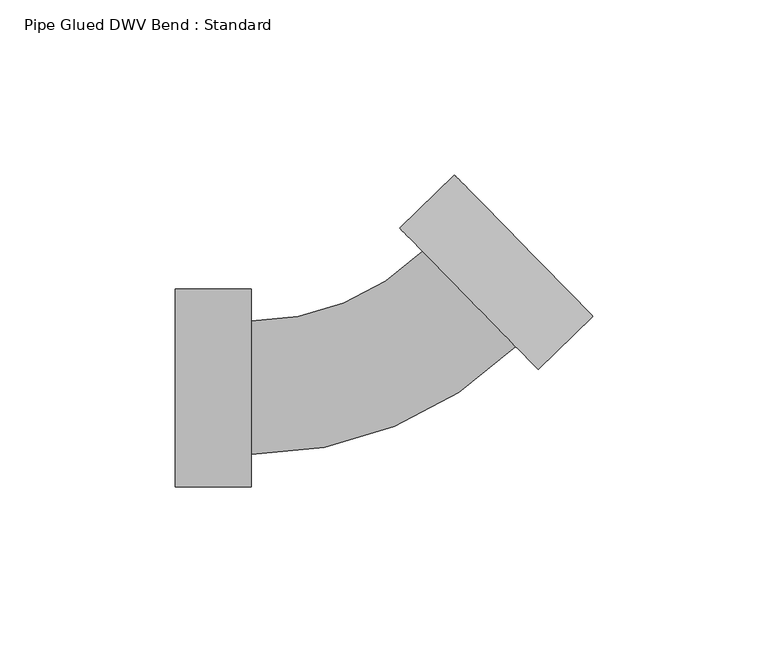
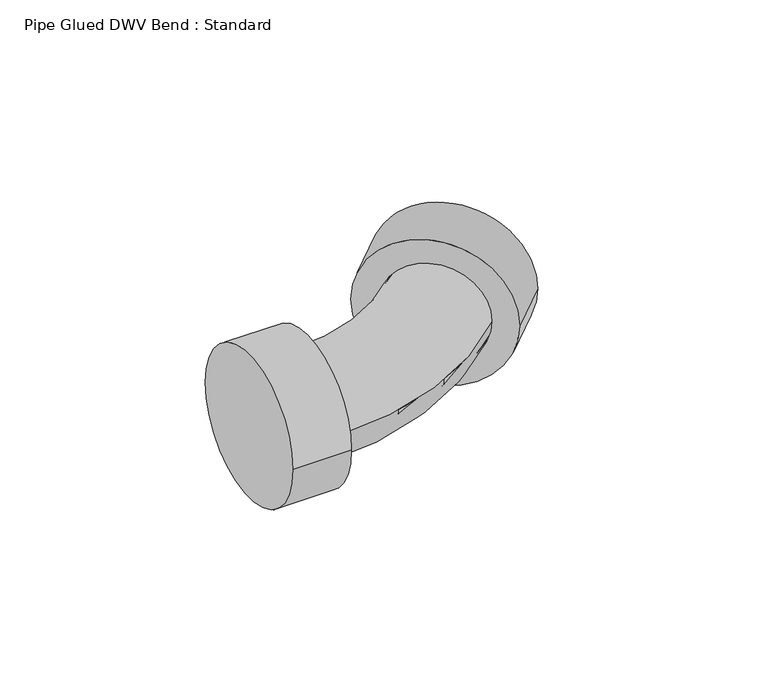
"""IFC4 building model written with IfcOpenShell, lengths in millimetres: pipe fitting geometry, Pipe Glued DWV Bend : Standard."""

from ifc_helpers import new_model, si_unit, point, frame, origin, origin_2d, place, context, project, spatial, circle_curve, ellipse_curve, trimmed, segment, composite_curve, outline, extrude, source, transform, mapped, element, save
from ifc_brep_helpers import plane_surface, cylinder_surface, revolved_surface, advanced_brep


def pipe_glued_dwv_bend_standard_bfc8288a(model_context):
    return source(origin(), model_context, "Body", "SolidModel", [
        advanced_brep(
        [(-36.2823055, -19.05, 0.0), (-36.2823055, 19.05, 0.0), (39.2506469, 11.7768802, 0.0), (12.5919578, 38.9968048, 0.0)],
        [
            (0, 1, circle_curve(frame((-36.2823055, 0.0, 0.0), z_axis=(-1.0, 0.0, 0.0), x_axis=(0.0, 1.0, 0.0)), 19.05)),
            (1, 0, circle_curve(frame((-36.2823055, 0.0, 0.0), z_axis=(-1.0, 0.0, 0.0), x_axis=(0.0, 1.0, 0.0)), 19.05)),
            (2, 3, circle_curve(frame((25.9213024, 25.3868425, 0.0), z_axis=(0.7144337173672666, 0.6997031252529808, 0.0), x_axis=(-0.6997031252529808, 0.7144337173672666, 0.0)), 19.05)),
            (3, 2, circle_curve(frame((25.9213024, 25.3868425, 0.0), z_axis=(0.7144337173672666, 0.6997031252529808, 0.0), x_axis=(-0.6997031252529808, 0.7144337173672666, 0.0)), 19.05)),
            (3, 1, circle_curve(frame((-36.2823055, 88.9, 0.0), z_axis=(0.0, 0.0, -1.0), x_axis=(0.0, -1.0, 0.0)), 69.85)),
            (0, 2, circle_curve(frame((-36.2823055, 88.9, 0.0), z_axis=(0.0, 0.0, 1.0), x_axis=(0.0, -1.0, 0.0)), 107.95)),
        ],
        [
            plane_surface(frame((-36.2823055, 0.0, 0.0), z_axis=(-1.0, 0.0, 0.0), x_axis=(0.0, 0.0, 1.0))),
            plane_surface(frame((25.9213024, 25.3868425, 0.0), z_axis=(0.7144337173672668, 0.6997031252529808, 0.0), x_axis=(0.0, 0.0, 1.0))),
            revolved_surface(trimmed(ellipse_curve(frame((-36.2823055, 0.0, 0.0), z_axis=(-1.0, 0.0, 0.0), x_axis=(0.0, 1.0, 0.0)), 19.05, 19.05), [point((-36.2823055, -19.05, 0.0))], [point((-36.2823055, 19.05, 0.0))], True, "CARTESIAN"), (-36.2823055, 88.9, 0.0), (0.0, 0.0, 1.0)),
            revolved_surface(trimmed(ellipse_curve(frame((-36.2823055, 0.0, 0.0), z_axis=(-1.0, 0.0, 0.0), x_axis=(0.0, 1.0, 0.0)), 19.05, 19.05), [point((-36.2823055, 19.05, 0.0))], [point((-36.2823055, -19.05, 0.0))], True, "CARTESIAN"), (-36.2823055, 88.9, 0.0), (0.0, 0.0, 1.0)),
        ],
        [
            (0, [[1, 2]]),
            (1, [[3, 4]]),
            (2, [[5, -1, 6, -4]]),
            (3, [[-6, -2, -5, -3]]),
        ],
    ),
        extrude(outline(composite_curve([segment(trimmed(circle_curve(origin_2d(), 28.2829), [point((-28.2829, 0.0))], [point((28.2829, 0.0))], False, "CARTESIAN"), True, "CONTINUOUS"), segment(trimmed(circle_curve(origin_2d(), 28.2829), [point((28.2829, 0.0))], [point((-28.2829, 0.0))], False, "CARTESIAN"), True, "CONTINUOUS")], self_intersect=False)), frame((-58.0958255, 0.0, 0.0), z_axis=(1.0, 0.0, 0.0), x_axis=(0.0, 1.0, 0.0)), (0.0, 0.0, 1.0), 21.81352),
        extrude(outline(composite_curve([segment(trimmed(circle_curve(origin_2d(), 28.2829), [point((0.0, -28.2829001))], [point((0.0, 28.2829))], False, "CARTESIAN"), True, "CONTINUOUS"), segment(trimmed(circle_curve(origin_2d(), 28.2829), [point((0.0, 28.2829))], [point((0.0, -28.2829001))], False, "CARTESIAN"), True, "CONTINUOUS")], self_intersect=False)), frame((25.9213024, 25.3868425, 0.0), z_axis=(0.7144337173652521, 0.699703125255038, 0.0), x_axis=(0.0, 0.0, 1.0)), (0.0, 0.0, 1.0), 21.81352),
        advanced_brep(
        [(-58.0958255, -28.2829, 0.0), (-58.0958255, 28.2829, 0.0), (-36.2823055, -28.2829, 0.0), (-36.2823055, 28.2829, 0.0), (-36.2823055, -19.05, 0.0), (-36.2823055, 19.05, 0.0), (12.5919578, 38.9968048, 0.0), (39.2506469, 11.7768802, 0.0), (45.7109359, 5.1805851, 0.0), (6.1316688, 45.5930999, 0.0), (61.2952501, 20.4435733, 0.0), (21.715983, 60.856088, 0.0)],
        [
            (0, 1, circle_curve(frame((-58.0958255, 0.0, 0.0), z_axis=(-1.0, 0.0, 0.0), x_axis=(0.0, 1.0, 0.0)), 28.2829)),
            (1, 0, circle_curve(frame((-58.0958255, 0.0, 0.0), z_axis=(-1.0, 0.0, 0.0), x_axis=(0.0, 1.0, 0.0)), 28.2829)),
            (2, 3, circle_curve(frame((-36.2823055, 0.0, 0.0), z_axis=(1.0, 0.0, 0.0), x_axis=(0.0, 1.0, 0.0)), 28.2829)),
            (3, 2, circle_curve(frame((-36.2823055, 0.0, 0.0), z_axis=(1.0, 0.0, 0.0), x_axis=(0.0, 1.0, 0.0)), 28.2829)),
            (4, 5, circle_curve(frame((-36.2823055, 0.0, 0.0), z_axis=(-1.0, 0.0, 0.0), x_axis=(0.0, 1.0, 0.0)), 19.05)),
            (5, 4, circle_curve(frame((-36.2823055, 0.0, 0.0), z_axis=(-1.0, 0.0, 0.0), x_axis=(0.0, 1.0, 0.0)), 19.05)),
            (0, 2),
            (3, 1),
            (6, 5, circle_curve(frame((-36.2823055, 88.9, 0.0), z_axis=(0.0, 0.0, -1.0), x_axis=(0.0, -1.0, 0.0)), 69.85)),
            (4, 7, circle_curve(frame((-36.2823055, 88.9, 0.0), z_axis=(0.0, 0.0, 1.0), x_axis=(0.0, -1.0, 0.0)), 107.95)),
            (7, 6, circle_curve(frame((25.9213024, 25.3868425, 0.0), z_axis=(-0.7144337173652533, -0.6997031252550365, 0.0), x_axis=(-0.6997031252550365, 0.7144337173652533, 0.0)), 19.05)),
            (6, 7, circle_curve(frame((25.9213024, 25.3868425, 0.0), z_axis=(-0.7144337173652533, -0.6997031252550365, 0.0), x_axis=(-0.6997031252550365, 0.7144337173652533, 0.0)), 19.05)),
            (8, 9, circle_curve(frame((25.9213024, 25.3868425, 0.0), z_axis=(-0.7144337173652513, -0.6997031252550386, 0.0), x_axis=(-0.6997031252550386, 0.7144337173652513, 0.0)), 28.2829)),
            (9, 8, circle_curve(frame((25.9213024, 25.3868425, 0.0), z_axis=(-0.7144337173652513, -0.6997031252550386, 0.0), x_axis=(-0.6997031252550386, 0.7144337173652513, 0.0)), 28.2829)),
            (10, 11, circle_curve(frame((41.5056166, 40.6498306, 0.0), z_axis=(0.7144337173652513, 0.6997031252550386, 0.0), x_axis=(-0.6997031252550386, 0.7144337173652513, 0.0)), 28.2829)),
            (11, 10, circle_curve(frame((41.5056166, 40.6498306, 0.0), z_axis=(0.7144337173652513, 0.6997031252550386, 0.0), x_axis=(-0.6997031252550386, 0.7144337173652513, 0.0)), 28.2829)),
            (8, 10),
            (11, 9),
        ],
        [
            plane_surface(frame((-58.0958255, 0.0, 0.0), z_axis=(-1.0, 0.0, 0.0), x_axis=(0.0, 0.0, 1.0))),
            plane_surface(frame((-36.2823055, 0.0, 0.0), z_axis=(1.0, 0.0, 0.0), x_axis=(0.0, 0.0, 1.0))),
            cylinder_surface(frame((-58.0958255, 0.0, 0.0), z_axis=(-1.0, 0.0, 0.0), x_axis=(0.0, 1.0, 0.0)), 28.2829),
            revolved_surface(trimmed(ellipse_curve(frame((-36.2823055, 0.0, 0.0), z_axis=(-1.0, 0.0, 0.0), x_axis=(0.0, 1.0, 0.0)), 19.05, 19.05), [point((-36.2823055, -19.05, 0.0))], [point((-36.2823055, 19.05, 0.0))], True, "CARTESIAN"), (-36.2823055, 88.9, 0.0), (0.0, 0.0, 1.0)),
            revolved_surface(trimmed(ellipse_curve(frame((-36.2823055, 0.0, 0.0), z_axis=(-1.0, 0.0, 0.0), x_axis=(0.0, 1.0, 0.0)), 19.05, 19.05), [point((-36.2823055, 19.05, 0.0))], [point((-36.2823055, -19.05, 0.0))], True, "CARTESIAN"), (-36.2823055, 88.9, 0.0), (0.0, 0.0, 1.0)),
            plane_surface(frame((25.9213024, 25.3868425, 0.0), z_axis=(-0.7144337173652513, -0.6997031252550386, 0.0), x_axis=(0.0, 0.0, 1.0))),
            plane_surface(frame((41.5056166, 40.6498306, 0.0), z_axis=(0.7144337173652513, 0.6997031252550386, 0.0), x_axis=(0.0, 0.0, 1.0))),
            cylinder_surface(frame((25.9213024, 25.3868425, 0.0), z_axis=(-0.7144337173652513, -0.6997031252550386, 0.0), x_axis=(-0.6997031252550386, 0.7144337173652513, 0.0)), 28.2829),
        ],
        [
            (0, [[1, 2]]),
            (1, [[3, 4], [5, 6]]),
            (2, [[-1, 7, -4, 8]]),
            (2, [[-2, -8, -3, -7]]),
            (3, [[9, -5, 10, 11]]),
            (4, [[-9, 12, -10, -6]]),
            (5, [[13, 14], [-11, -12]]),
            (6, [[15, 16]]),
            (7, [[-13, 17, -16, 18]]),
            (7, [[-14, -18, -15, -17]]),
        ],
    ),
    ])


if __name__ == "__main__":
    model = new_model("IFC4")
    model_context = context("Model", 3, world=origin())
    ifc_project = project(units=[si_unit("LENGTHUNIT", "METRE", prefix="MILLI")], contexts=[model_context])
    site = spatial("IfcSite", under=ifc_project)
    building = spatial("IfcBuilding", under=site)
    placement = place(None, origin())
    pipe_glued_dwv_bend_standard_shape = pipe_glued_dwv_bend_standard_bfc8288a(model_context)
    element("IfcPipeFitting", 1, ObjectType="Pipe Glued DWV Bend : Standard", at=placement, inside=building, context=model_context, shape_type="MappedRepresentation", body=[
        mapped(pipe_glued_dwv_bend_standard_shape, transform((0.0, 0.0, 0.0), x_axis=(1.0, 0.0, 0.0), y_axis=(0.0, 1.0, 0.0), z_axis=(0.0, 0.0, 1.0))),
    ])
    save(model, "model.ifc")
